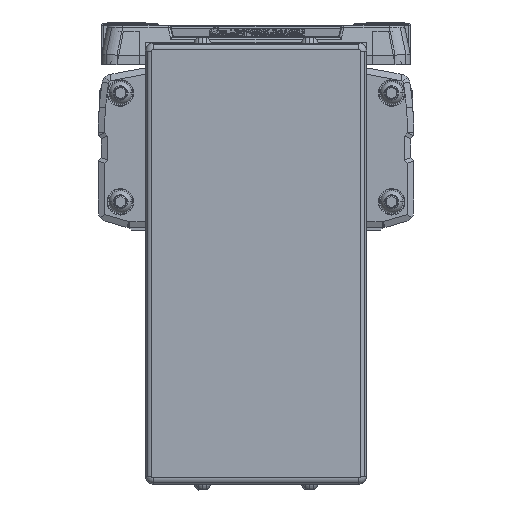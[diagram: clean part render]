
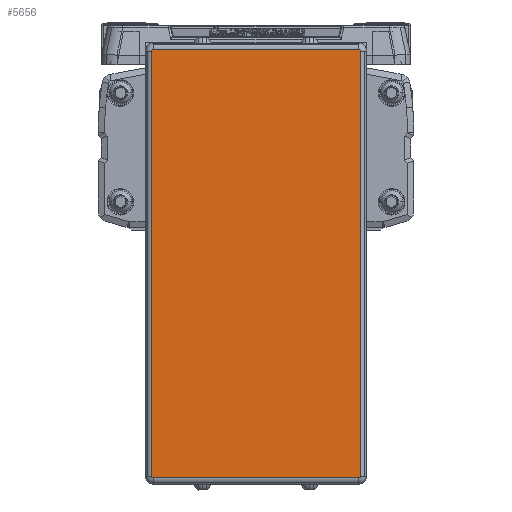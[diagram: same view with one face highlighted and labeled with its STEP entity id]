
A CAD part, left-side view. The second image highlights one B-rep face of the part: STEP entity #5656.
In plain terms, the highlighted planar face has unit normal (-1, 0, 0).
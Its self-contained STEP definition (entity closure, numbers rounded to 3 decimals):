
#5656=ADVANCED_FACE('',(#11705),#11706,.F.);
#11705=FACE_OUTER_BOUND('',#18532,.T.);
#11706=PLANE('',#18533);
#18532=EDGE_LOOP('',(#34764,#34765,#34766,#34767,#34768,#34769,#34770,#34771));
#18533=AXIS2_PLACEMENT_3D('',#34772,#34773,#34774);
#34764=ORIENTED_EDGE('',*,*,#42595,.T.);
#34765=ORIENTED_EDGE('',*,*,#38768,.T.);
#34766=ORIENTED_EDGE('',*,*,#40992,.T.);
#34767=ORIENTED_EDGE('',*,*,#42052,.T.);
#34768=ORIENTED_EDGE('',*,*,#40923,.T.);
#34769=ORIENTED_EDGE('',*,*,#41209,.T.);
#34770=ORIENTED_EDGE('',*,*,#44882,.T.);
#34771=ORIENTED_EDGE('',*,*,#44356,.T.);
#34772=CARTESIAN_POINT('',(-616.0,0.,-41.6));
#34773=DIRECTION('',(1.0,0.,0.));
#34774=DIRECTION('',(0.,0.,1.0));
#38768=EDGE_CURVE('',#46374,#46371,#46375,.T.);
#40923=EDGE_CURVE('',#50027,#50025,#50028,.T.);
#40992=EDGE_CURVE('',#46371,#50128,#50130,.T.);
#41209=EDGE_CURVE('',#50025,#50465,#50467,.T.);
#42052=EDGE_CURVE('',#50128,#50027,#51765,.T.);
#42595=EDGE_CURVE('',#52542,#46374,#52543,.T.);
#44356=EDGE_CURVE('',#54837,#52542,#54838,.T.);
#44882=EDGE_CURVE('',#50465,#54837,#55433,.T.);
#46371=VERTEX_POINT('',#57309);
#46374=VERTEX_POINT('',#57312);
#46375=CIRCLE('',#57313,0.5);
#50025=VERTEX_POINT('',#62160);
#50027=VERTEX_POINT('',#62162);
#50028=LINE('',#62163,#62164);
#50128=VERTEX_POINT('',#62313);
#50130=LINE('',#62315,#62316);
#50465=VERTEX_POINT('',#62761);
#50467=CIRCLE('',#62763,0.5);
#51765=CIRCLE('',#64692,0.5);
#52542=VERTEX_POINT('',#65734);
#52543=LINE('',#65735,#65736);
#54837=VERTEX_POINT('',#68913);
#54838=CIRCLE('',#68914,0.5);
#55433=LINE('',#69755,#69756);
#57309=CARTESIAN_POINT('',(-616.,-32.55,26.3));
#57312=CARTESIAN_POINT('',(-616.,-33.05,25.8));
#57313=AXIS2_PLACEMENT_3D('',#71157,#71158,#71159);
#62160=CARTESIAN_POINT('',(-616.0,33.05,-109.));
#62162=CARTESIAN_POINT('',(-616.,33.05,25.8));
#62163=CARTESIAN_POINT('',(-616.0,33.05,-41.6));
#62164=VECTOR('',#74309,10.0);
#62313=CARTESIAN_POINT('',(-616.,32.55,26.3));
#62315=CARTESIAN_POINT('',(-616.,0.,26.3));
#62316=VECTOR('',#74395,10.0);
#62761=CARTESIAN_POINT('',(-616.0,32.55,-109.5));
#62763=AXIS2_PLACEMENT_3D('',#74675,#74676,#74677);
#64692=AXIS2_PLACEMENT_3D('',#75776,#75777,#75778);
#65734=CARTESIAN_POINT('',(-616.0,-33.05,-109.));
#65735=CARTESIAN_POINT('',(-616.,-33.05,-41.6));
#65736=VECTOR('',#76495,10.0);
#68913=CARTESIAN_POINT('',(-616.0,-32.55,-109.5));
#68914=AXIS2_PLACEMENT_3D('',#78707,#78708,#78709);
#69755=CARTESIAN_POINT('',(-616.0,0.,-109.5));
#69756=VECTOR('',#79199,10.0);
#71157=CARTESIAN_POINT('',(-616.,-32.55,25.8));
#71158=DIRECTION('',(-1.0,0.,0.));
#71159=DIRECTION('',(0.,-0.707,0.707));
#74309=DIRECTION('',(0.,0.,-1.0));
#74395=DIRECTION('',(0.,1.0,0.));
#74675=CARTESIAN_POINT('',(-616.0,32.55,-109.));
#74676=DIRECTION('',(-1.0,0.,0.));
#74677=DIRECTION('',(0.,0.707,-0.707));
#75776=CARTESIAN_POINT('',(-616.,32.55,25.8));
#75777=DIRECTION('',(-1.0,0.,0.));
#75778=DIRECTION('',(0.,0.707,0.707));
#76495=DIRECTION('',(0.,0.,1.0));
#78707=CARTESIAN_POINT('',(-616.0,-32.55,-109.));
#78708=DIRECTION('',(-1.0,0.,0.));
#78709=DIRECTION('',(0.,-0.707,-0.707));
#79199=DIRECTION('',(0.,-1.0,0.));
